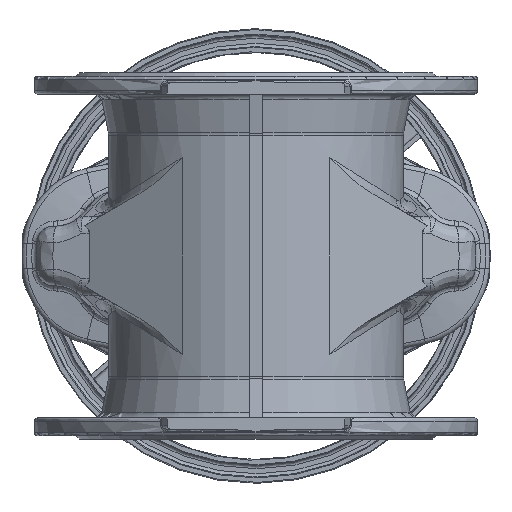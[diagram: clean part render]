
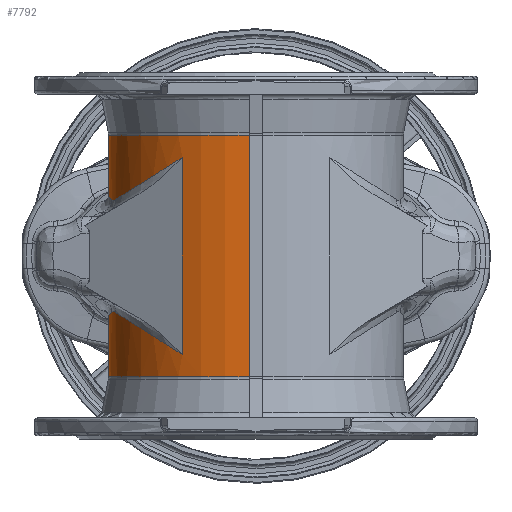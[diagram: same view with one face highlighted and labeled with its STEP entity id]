
A CAD part, front view. The second image highlights one B-rep face of the part: STEP entity #7792.
In plain terms, the highlighted cylindrical face has radius 133 mm (diameter 266 mm), a partial arc.
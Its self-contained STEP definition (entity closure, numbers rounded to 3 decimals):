
#1166 = AXIS2_PLACEMENT_3D ( 'NONE', #3216, #3217, #3218 ) ;
#1205 = AXIS2_PLACEMENT_3D ( 'NONE', #3354, #3355, #3356 ) ;
#2664 = CARTESIAN_POINT ( 'NONE',  ( -6., 132.865, 0. ) ) ;
#2665 = DIRECTION ( 'NONE',  ( 0., 0., 1. ) ) ;
#2854 = CARTESIAN_POINT ( 'NONE',  ( -129.881, -28.633, 50.842 ) ) ;
#2855 = CARTESIAN_POINT ( 'NONE',  ( -129.44, -30.633, 50.544 ) ) ;
#2860 = CARTESIAN_POINT ( 'NONE',  ( -128.954, -32.622, 50.363 ) ) ;
#2861 = CARTESIAN_POINT ( 'NONE',  ( -128.155, -35.585, 50.33 ) ) ;
#2862 = CARTESIAN_POINT ( 'NONE',  ( -127.878, -36.57, 50.359 ) ) ;
#2863 = CARTESIAN_POINT ( 'NONE',  ( -127.3, -38.534, 50.518 ) ) ;
#2864 = CARTESIAN_POINT ( 'NONE',  ( -126.999, -39.513, 50.648 ) ) ;
#2865 = CARTESIAN_POINT ( 'NONE',  ( -126.687, -40.488, 50.844 ) ) ;
#2918 = CARTESIAN_POINT ( 'NONE',  ( -66.5, -115.181, 0. ) ) ;
#2920 = DIRECTION ( 'NONE',  ( 0., 0., -1. ) ) ;
#2960 = CARTESIAN_POINT ( 'NONE',  ( -129.881, -28.633, -50.842 ) ) ;
#2970 = CARTESIAN_POINT ( 'NONE',  ( -129.44, -30.633, -50.544 ) ) ;
#2975 = CARTESIAN_POINT ( 'NONE',  ( -128.954, -32.622, -50.363 ) ) ;
#2976 = CARTESIAN_POINT ( 'NONE',  ( -128.155, -35.585, -50.33 ) ) ;
#2977 = CARTESIAN_POINT ( 'NONE',  ( -127.878, -36.57, -50.359 ) ) ;
#2978 = CARTESIAN_POINT ( 'NONE',  ( -127.3, -38.534, -50.518 ) ) ;
#2979 = CARTESIAN_POINT ( 'NONE',  ( -126.999, -39.513, -50.648 ) ) ;
#2980 = CARTESIAN_POINT ( 'NONE',  ( -126.687, -40.488, -50.844 ) ) ;
#3017 = CARTESIAN_POINT ( 'NONE',  ( -126.687, -40.488, 50.844 ) ) ;
#3018 = CARTESIAN_POINT ( 'NONE',  ( -116.496, -72.376, 57.259 ) ) ;
#3021 = DIRECTION ( 'NONE',  ( 0., 0., 1. ) ) ;
#3022 = CARTESIAN_POINT ( 'NONE',  ( -95.492, -98.443, 70.48 ) ) ;
#3023 = CARTESIAN_POINT ( 'NONE',  ( -66.5, -115.181, 88.729 ) ) ;
#3026 = CARTESIAN_POINT ( 'NONE',  ( -6., -132.865, 0. ) ) ;
#3216 = CARTESIAN_POINT ( 'NONE',  ( 0., 0., -108.833 ) ) ;
#3217 = DIRECTION ( 'NONE',  ( 0., 0., -1. ) ) ;
#3218 = DIRECTION ( 'NONE',  ( 0., -1., 0. ) ) ;
#3270 = CARTESIAN_POINT ( 'NONE',  ( -6., 132.865, 0. ) ) ;
#3271 = DIRECTION ( 'NONE',  ( 0., 0., -1. ) ) ;
#3325 = CARTESIAN_POINT ( 'NONE',  ( -6., 132.865, 77.968 ) ) ;
#3326 = CARTESIAN_POINT ( 'NONE',  ( -94.883, 128.851, 75.645 ) ) ;
#3330 = CARTESIAN_POINT ( 'NONE',  ( -149.036, 58.255, 63.787 ) ) ;
#3331 = CARTESIAN_POINT ( 'NONE',  ( -129.881, -28.633, 50.842 ) ) ;
#3354 = CARTESIAN_POINT ( 'NONE',  ( 0., 0., 108.833 ) ) ;
#3355 = DIRECTION ( 'NONE',  ( 0., 0., -1. ) ) ;
#3356 = DIRECTION ( 'NONE',  ( 0., -1., 0. ) ) ;
#3470 = CARTESIAN_POINT ( 'NONE',  ( -94.883, 128.851, -75.645 ) ) ;
#3471 = CARTESIAN_POINT ( 'NONE',  ( -6., 132.865, -77.968 ) ) ;
#3481 = CIRCLE ( 'NONE', #1166, 133. ) ;
#3491 = LINE ( 'NONE', #3270, #3493 ) ;
#3493 = VECTOR ( 'NONE', #3271, 1000. ) ;
#3500 = CIRCLE ( 'NONE', #1205, 133. ) ;
#5768 = CARTESIAN_POINT ( 'NONE',  ( -116.496, -72.376, -57.259 ) ) ;
#5770 = CARTESIAN_POINT ( 'NONE',  ( -149.036, 58.255, -63.787 ) ) ;
#5771 = CARTESIAN_POINT ( 'NONE',  ( -129.881, -28.633, -50.842 ) ) ;
#5772 = CARTESIAN_POINT ( 'NONE',  ( -126.687, -40.488, -50.844 ) ) ;
#5774 = CARTESIAN_POINT ( 'NONE',  ( -95.492, -98.443, -70.48 ) ) ;
#5775 = CARTESIAN_POINT ( 'NONE',  ( -66.5, -115.181, -88.729 ) ) ;
#7792 = ADVANCED_FACE ( 'NONE', ( #18648 ), #18649, .T. ) ;
#13206 = CARTESIAN_POINT ( 'NONE',  ( -6., -132.865, -108.833 ) ) ;
#13218 = CARTESIAN_POINT ( 'NONE',  ( -6., 132.865, 77.968 ) ) ;
#13224 = CARTESIAN_POINT ( 'NONE',  ( -6., 132.865, -77.968 ) ) ;
#13244 = CARTESIAN_POINT ( 'NONE',  ( -129.881, -28.633, 50.842 ) ) ;
#13258 = CARTESIAN_POINT ( 'NONE',  ( -6., 132.865, 108.833 ) ) ;
#13326 = CARTESIAN_POINT ( 'NONE',  ( -129.881, -28.633, -50.842 ) ) ;
#13327 = CARTESIAN_POINT ( 'NONE',  ( -66.5, -115.181, 88.729 ) ) ;
#18648 = FACE_OUTER_BOUND ( 'NONE', #44774, .T. ) ;
#18649 = CYLINDRICAL_SURFACE ( 'NONE', #30465, 133. ) ;
#20208 = ORIENTED_EDGE ( 'NONE', *, *, #31341, .T. ) ;
#20209 = ORIENTED_EDGE ( 'NONE', *, *, #31303, .T. ) ;
#20210 = ORIENTED_EDGE ( 'NONE', *, *, #31408, .T. ) ;
#20211 = ORIENTED_EDGE ( 'NONE', *, *, #31258, .F. ) ;
#20212 = ORIENTED_EDGE ( 'NONE', *, *, #31414, .T. ) ;
#20213 = ORIENTED_EDGE ( 'NONE', *, *, #31344, .T. ) ;
#20214 = ORIENTED_EDGE ( 'NONE', *, *, #31383, .F. ) ;
#20215 = ORIENTED_EDGE ( 'NONE', *, *, #31398, .T. ) ;
#20216 = ORIENTED_EDGE ( 'NONE', *, *, #31440, .F. ) ;
#20217 = ORIENTED_EDGE ( 'NONE', *, *, #31329, .F. ) ;
#20218 = ORIENTED_EDGE ( 'NONE', *, *, #31441, .F. ) ;
#20219 = ORIENTED_EDGE ( 'NONE', *, *, #31324, .T. ) ;
#21269 = VERTEX_POINT ( 'NONE', #42424 ) ;
#21329 = VERTEX_POINT ( 'NONE', #42475 ) ;
#21336 = VERTEX_POINT ( 'NONE', #42481 ) ;
#21339 = VERTEX_POINT ( 'NONE', #42483 ) ;
#21359 = VERTEX_POINT ( 'NONE', #42502 ) ;
#21981 =( BOUNDED_CURVE ( )  B_SPLINE_CURVE ( 3, ( #3017, #3018, #3022, #3023 ),
 .UNSPECIFIED., .F., .F. ) 
 B_SPLINE_CURVE_WITH_KNOTS ( ( 4, 4 ),
 ( 3.451, 4.189 ),
 .UNSPECIFIED. ) 
 CURVE ( )  GEOMETRIC_REPRESENTATION_ITEM ( )  RATIONAL_B_SPLINE_CURVE ( ( 1., 0.955, 0.955, 1. ) ) 
 REPRESENTATION_ITEM ( '' )  );
#21990 = B_SPLINE_CURVE_WITH_KNOTS ( 'NONE', 3,
 ( #2960, #2970, #2975, #2976, #2977, #2978, #2979, #2980 ),
 .UNSPECIFIED., .F., .F.,
 ( 4, 2, 2, 4 ),
 ( 0., 0.006, 0.009, 0.012 ),
 .UNSPECIFIED. ) ;
#22000 = B_SPLINE_CURVE_WITH_KNOTS ( 'NONE', 3,
 ( #2854, #2855, #2860, #2861, #2862, #2863, #2864, #2865 ),
 .UNSPECIFIED., .F., .F.,
 ( 4, 2, 2, 4 ),
 ( 0., 0.006, 0.009, 0.012 ),
 .UNSPECIFIED. ) ;
#22656 =( BOUNDED_CURVE ( )  B_SPLINE_CURVE ( 3, ( #5772, #5768, #5774, #5775 ),
 .UNSPECIFIED., .F., .F. ) 
 B_SPLINE_CURVE_WITH_KNOTS ( ( 4, 4 ),
 ( 3.451, 4.189 ),
 .UNSPECIFIED. ) 
 CURVE ( )  GEOMETRIC_REPRESENTATION_ITEM ( )  RATIONAL_B_SPLINE_CURVE ( ( 1., 0.955, 0.955, 1. ) ) 
 REPRESENTATION_ITEM ( '' )  );
#22683 =( BOUNDED_CURVE ( )  B_SPLINE_CURVE ( 3, ( #3471, #3470, #5770, #5771 ),
 .UNSPECIFIED., .F., .F. ) 
 B_SPLINE_CURVE_WITH_KNOTS ( ( 4, 4 ),
 ( 0.17, 1.913 ),
 .UNSPECIFIED. ) 
 CURVE ( )  GEOMETRIC_REPRESENTATION_ITEM ( )  RATIONAL_B_SPLINE_CURVE ( ( 1., 0.763, 0.763, 1. ) ) 
 REPRESENTATION_ITEM ( '' )  );
#23392 =( BOUNDED_CURVE ( )  B_SPLINE_CURVE ( 3, ( #3325, #3326, #3330, #3331 ),
 .UNSPECIFIED., .F., .F. ) 
 B_SPLINE_CURVE_WITH_KNOTS ( ( 4, 4 ),
 ( 0.17, 1.913 ),
 .UNSPECIFIED. ) 
 CURVE ( )  GEOMETRIC_REPRESENTATION_ITEM ( )  RATIONAL_B_SPLINE_CURVE ( ( 1., 0.763, 0.763, 1. ) ) 
 REPRESENTATION_ITEM ( '' )  );
#30465 = AXIS2_PLACEMENT_3D ( 'NONE', #37289, #37277, #37273 ) ;
#31258 = EDGE_CURVE ( 'NONE', #38495, #38573, #35691, .T. ) ;
#31303 = EDGE_CURVE ( 'NONE', #38545, #21329, #22000, .T. ) ;
#31324 = EDGE_CURVE ( 'NONE', #38721, #21359, #35802, .T. ) ;
#31329 = EDGE_CURVE ( 'NONE', #38719, #21336, #21990, .T. ) ;
#31341 = EDGE_CURVE ( 'NONE', #21329, #38721, #21981, .T. ) ;
#31344 = EDGE_CURVE ( 'NONE', #38469, #21339, #35827, .T. ) ;
#31383 = EDGE_CURVE ( 'NONE', #38469, #21269, #3481, .T. ) ;
#31398 = EDGE_CURVE ( 'NONE', #38505, #21269, #3491, .T. ) ;
#31408 = EDGE_CURVE ( 'NONE', #38495, #38545, #23392, .T. ) ;
#31414 = EDGE_CURVE ( 'NONE', #21339, #38573, #3500, .T. ) ;
#31440 = EDGE_CURVE ( 'NONE', #38505, #38719, #22683, .T. ) ;
#31441 = EDGE_CURVE ( 'NONE', #21336, #21359, #22656, .T. ) ;
#35691 = LINE ( 'NONE', #2664, #35693 ) ;
#35693 = VECTOR ( 'NONE', #2665, 1000. ) ;
#35802 = LINE ( 'NONE', #2918, #35806 ) ;
#35806 = VECTOR ( 'NONE', #2920, 1000. ) ;
#35827 = LINE ( 'NONE', #3026, #35830 ) ;
#35830 = VECTOR ( 'NONE', #3021, 1000. ) ;
#37273 = DIRECTION ( 'NONE',  ( 0., -1., 0. ) ) ;
#37277 = DIRECTION ( 'NONE',  ( 0., 0., 1. ) ) ;
#37289 = CARTESIAN_POINT ( 'NONE',  ( 0., 0., 0. ) ) ;
#38469 = VERTEX_POINT ( 'NONE', #13206 ) ;
#38495 = VERTEX_POINT ( 'NONE', #13218 ) ;
#38505 = VERTEX_POINT ( 'NONE', #13224 ) ;
#38545 = VERTEX_POINT ( 'NONE', #13244 ) ;
#38573 = VERTEX_POINT ( 'NONE', #13258 ) ;
#38719 = VERTEX_POINT ( 'NONE', #13326 ) ;
#38721 = VERTEX_POINT ( 'NONE', #13327 ) ;
#42424 = CARTESIAN_POINT ( 'NONE',  ( -6., 132.865, -108.833 ) ) ;
#42475 = CARTESIAN_POINT ( 'NONE',  ( -126.687, -40.488, 50.844 ) ) ;
#42481 = CARTESIAN_POINT ( 'NONE',  ( -126.687, -40.488, -50.844 ) ) ;
#42483 = CARTESIAN_POINT ( 'NONE',  ( -6., -132.865, 108.833 ) ) ;
#42502 = CARTESIAN_POINT ( 'NONE',  ( -66.5, -115.181, -88.729 ) ) ;
#44774 = EDGE_LOOP ( 'NONE', ( #20219, #20218, #20217, #20216, #20215, #20214, #20213, #20212, #20211, #20210, #20209, #20208 ) ) ;
